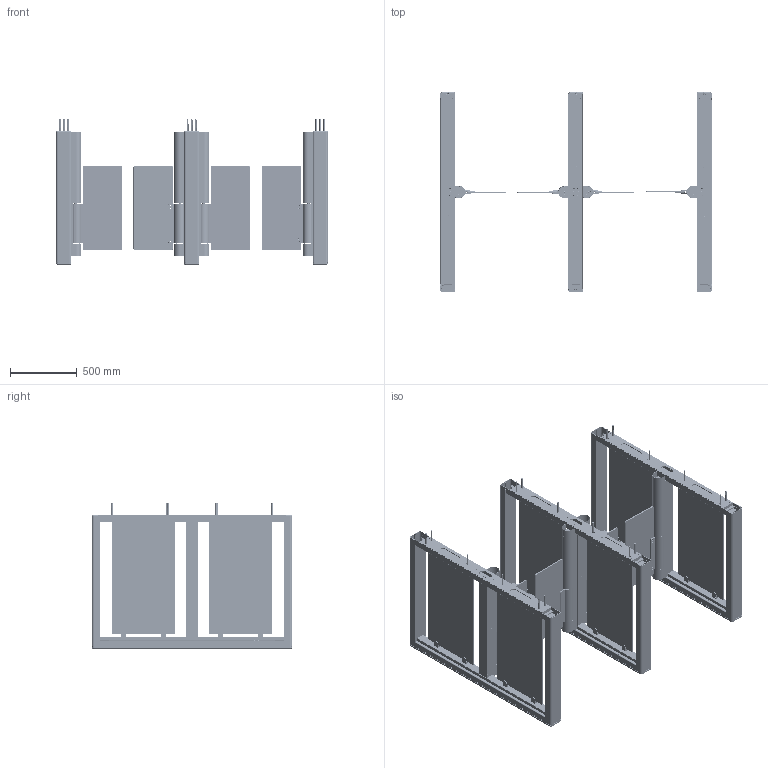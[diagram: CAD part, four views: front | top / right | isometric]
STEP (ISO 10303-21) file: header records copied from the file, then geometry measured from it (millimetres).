
FILE_DESCRIPTION((''),'2;1');
FILE_NAME('ECSBA310_ASM','2024-01-26T',('Administrator'),(''),'PRO/ENGINEER BY PARAMETRIC TECHNOLOGY CORPORATION, 2012090','PRO/ENGINEER BY PARAMETRIC TECHNOLOGY CORPORATION, 2012090','');
FILE_SCHEMA(('AUTOMOTIVE_DESIGN_CC2 { 1 2 10303 214 -1 1 5 2 }'));
Products named in the file (211): H3000-001_9; H3000-PMMA05_8; H3000-PMMA09_9; H3000-010_8; H3000-007_8; BOLIJIA-A_8; BOLIJIA-B_8; BOLI_ASM_8_ASM_ASM_ASM; H3000-A_ASM_12_ASM_ASM_ASM; H3000-B01-FRID_8; G-G_8; MANIFOLD_SOLID_BREP_395064; MANIFOLD_SOLID_BREP_395218; LOGO-RFID_9_ASM_ASM_ASM; R400-B-S_8; MANIFOLD_SOLID_BREP_401773; MANIFOLD_SOLID_BREP_401989; MANIFOLD_SOLID_BREP_402205; MANIFOLD_SOLID_BREP_402421; MANIFOLD_SOLID_BREP_402571; QR-LOGO_8_ASM_ASM_ASM; H3000-C01-01_ASM_8_ASM_ASM_ASM; A2-PMMA01_13; H3000-048-01_10; H3000-C1-FRID_ASM_8_ASM_ASM_ASM; H3000-003_10; H3000-003-1_10; H3000-038_8; SBTH-001_12; SBTH-002_8; SBTH-004_13; M6X16-P_10; XW10-CG_8; XW10-B11G_8; XW10-BG-25186_8; ____-____1-23317_8; ____2_8; XW10-B12G_ASM_8_ASM_ASM_ASM; XW10-BG-56058_ASM_8_ASM_ASM_ASM; SBTH-003_8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
Assembly tree (357 placements, depth 10):
  ECSBA310_ASM
    ECSBA310_ASM_ASM
      SBTH3000_ASM_ASM_ASM_ASM  x2
        SBTH3000_ASM_19_ASM_ASM_ASM
          H3000-A_ASM_12_ASM_ASM_ASM
            H3000-001_9
            H3000-PMMA05_8
            H3000-PMMA09_9  x2
            H3000-010_8  x2
            H3000-007_8  x3
            BOLI_ASM_8_ASM_ASM_ASM  x4
              BOLIJIA-A_8
              BOLIJIA-B_8
          H3000-C1-FRID_ASM_8_ASM_ASM_ASM
            H3000-B01-FRID_8
            H3000-C01-01_ASM_8_ASM_ASM_ASM
              G-G_8
              LOGO-RFID_9_ASM_ASM_ASM
                MANIFOLD_SOLID_BREP_395064
                MANIFOLD_SOLID_BREP_395218
              R400-B-S_8
              QR-LOGO_8_ASM_ASM_ASM  x2
                MANIFOLD_SOLID_BREP_401773
                MANIFOLD_SOLID_BREP_401989
                MANIFOLD_SOLID_BREP_402205
                MANIFOLD_SOLID_BREP_402421
                MANIFOLD_SOLID_BREP_402571
            A2-PMMA01_13
            H3000-048-01_10  x2
          H3000-E_ASM_11_ASM_ASM_ASM
            H3000-003_10
            H3000-003-1_10
            H3000-038_8
            ALL-SBTH_ASM_12_ASM_ASM_ASM
              SBTH-001_12
              SBTH-A01_ASM_9_ASM_ASM_ASM
                SBTH-002_8
                SBTH-004_13
                M6X16-P_10  x8
                XW10-BG-56058_ASM_8_ASM_ASM_ASM
                  XW10-CG_8
                  XW10-B11G_8  x4
                  XW10-BG-25186_8
                  XW10-B12G_ASM_8_ASM_ASM_ASM  x4
                SBTH-003_8
                20X42X12_8
                M5X10_9
                4X4X16_8
              SBTH-008_8
              SBTH-009_8
              SBTH-DOORLOCK_ASM_8_ASM_ASM_ASM
                BL2-J17-2_8
                BL2-J118-2_8
                BL2-J600A_1_8
              M6X20_8  x8
              PM4X50_8  x2
              M8X35_8
              H3000-P02_ASM_9_ASM_ASM_ASM
                H3000-PMMA06_8
                H3000-PMMA07_8
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Bounding box: 2036.6 x 1500 x 1090.31 mm (x, y, z)
Volume: 66431041.5 mm3; surface area: 29337396.5 mm2
Topology: 516 solids, 516 shells, 30170 faces, 76476 edges, 47270 vertices
Faces by surface type: cylinder 12510, plane 8880, cone 7688, torus 664, bspline 312, sphere 116
Entity records: 454853 total; most frequent: CARTESIAN_POINT 83182, DIRECTION 66519, ORIENTED_EDGE 62004, EDGE_CURVE 31002, AXIS2_PLACEMENT_3D 25012, PRESENTATION_STYLE_ASSIGNMENT 20761, VERTEX_POINT 20475, STYLED_ITEM 20009
